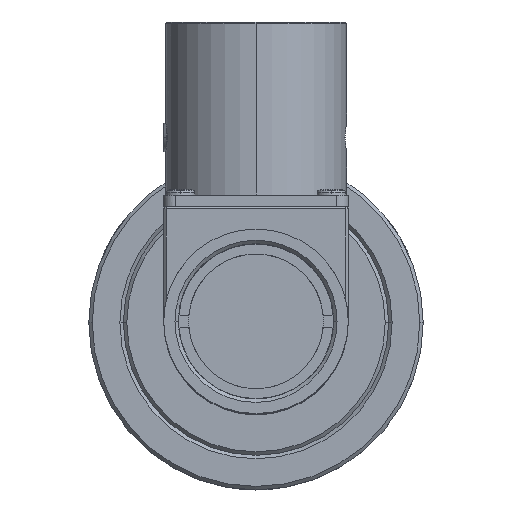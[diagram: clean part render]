
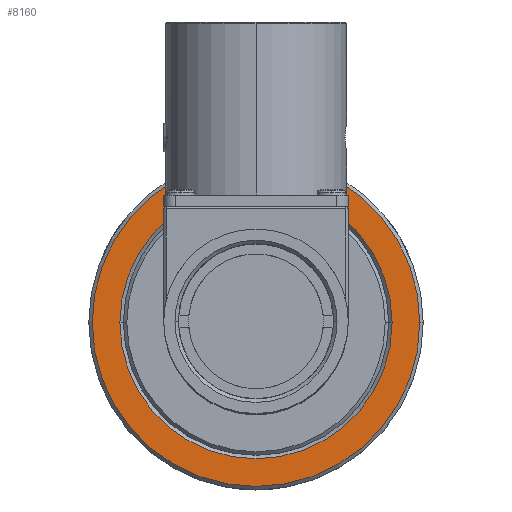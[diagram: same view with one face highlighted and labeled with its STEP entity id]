
A CAD part, top view. The second image highlights one B-rep face of the part: STEP entity #8160.
In plain terms, the highlighted planar face has unit normal (0, 0, 1).
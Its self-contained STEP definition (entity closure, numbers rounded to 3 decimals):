
#646 = VERTEX_POINT ( 'NONE', #7381 ) ;
#2266 = CIRCLE ( 'NONE', #2490, 14.2 ) ;
#2470 = DIRECTION ( 'NONE',  ( 0., 0., 1. ) ) ;
#2489 = DIRECTION ( 'NONE',  ( -1., 0., 0. ) ) ;
#2490 = AXIS2_PLACEMENT_3D ( 'NONE', #2512, #2470, #2489 ) ;
#2512 = CARTESIAN_POINT ( 'NONE',  ( 0., 0., -23.2 ) ) ;
#2900 = DIRECTION ( 'NONE',  ( -1., 0., 0. ) ) ;
#2901 = DIRECTION ( 'NONE',  ( 0., 0., -1. ) ) ;
#2905 = CIRCLE ( 'NONE', #2916, 11.8 ) ;
#2911 = CARTESIAN_POINT ( 'NONE',  ( 0., 0., -23.2 ) ) ;
#2916 = AXIS2_PLACEMENT_3D ( 'NONE', #2911, #2901, #2900 ) ;
#2934 = CARTESIAN_POINT ( 'NONE',  ( 14.2, 0., -23.2 ) ) ;
#2947 = CARTESIAN_POINT ( 'NONE',  ( 11.8, 0., -23.2 ) ) ;
#3295 = CARTESIAN_POINT ( 'NONE',  ( -14.2, 0., -23.2 ) ) ;
#7381 = CARTESIAN_POINT ( 'NONE',  ( -11.8, 0., -23.2 ) ) ;
#8044 = ORIENTED_EDGE ( 'NONE', *, *, #8195, .T. ) ;
#8069 = ORIENTED_EDGE ( 'NONE', *, *, #8167, .T. ) ;
#8070 = ORIENTED_EDGE ( 'NONE', *, *, #10692, .T. ) ;
#8138 = ORIENTED_EDGE ( 'NONE', *, *, #10536, .T. ) ;
#8160 = ADVANCED_FACE ( 'NONE', ( #9415, #9421 ), #9362, .F. ) ;
#8167 = EDGE_CURVE ( 'NONE', #10691, #10553, #9385, .T. ) ;
#8183 = EDGE_LOOP ( 'NONE', ( #8138, #8044 ) ) ;
#8186 = EDGE_LOOP ( 'NONE', ( #8069, #8070 ) ) ;
#8195 = EDGE_CURVE ( 'NONE', #646, #10550, #10080, .T. ) ;
#9081 = DIRECTION ( 'NONE',  ( -1., 0., 0. ) ) ;
#9195 = DIRECTION ( 'NONE',  ( 0., 0., -1. ) ) ;
#9196 = CARTESIAN_POINT ( 'NONE',  ( 0., 11.5, -23.2 ) ) ;
#9207 = AXIS2_PLACEMENT_3D ( 'NONE', #9196, #9195, #9081 ) ;
#9362 = PLANE ( 'NONE',  #9207 ) ;
#9371 = CARTESIAN_POINT ( 'NONE',  ( 0., 0., -23.2 ) ) ;
#9372 = DIRECTION ( 'NONE',  ( 0., 0., 1. ) ) ;
#9384 = AXIS2_PLACEMENT_3D ( 'NONE', #9371, #9372, #9436 ) ;
#9385 = CIRCLE ( 'NONE', #9384, 14.2 ) ;
#9415 = FACE_BOUND ( 'NONE', #8183, .T. ) ;
#9421 = FACE_OUTER_BOUND ( 'NONE', #8186, .T. ) ;
#9436 = DIRECTION ( 'NONE',  ( -1., 0., 0. ) ) ;
#10018 = CARTESIAN_POINT ( 'NONE',  ( 0., 0., -23.2 ) ) ;
#10077 = DIRECTION ( 'NONE',  ( -1., 0., 0. ) ) ;
#10078 = DIRECTION ( 'NONE',  ( 0., 0., -1. ) ) ;
#10079 = AXIS2_PLACEMENT_3D ( 'NONE', #10018, #10078, #10077 ) ;
#10080 = CIRCLE ( 'NONE', #10079, 11.8 ) ;
#10536 = EDGE_CURVE ( 'NONE', #10550, #646, #2905, .T. ) ;
#10550 = VERTEX_POINT ( 'NONE', #2947 ) ;
#10553 = VERTEX_POINT ( 'NONE', #2934 ) ;
#10691 = VERTEX_POINT ( 'NONE', #3295 ) ;
#10692 = EDGE_CURVE ( 'NONE', #10553, #10691, #2266, .T. ) ;
